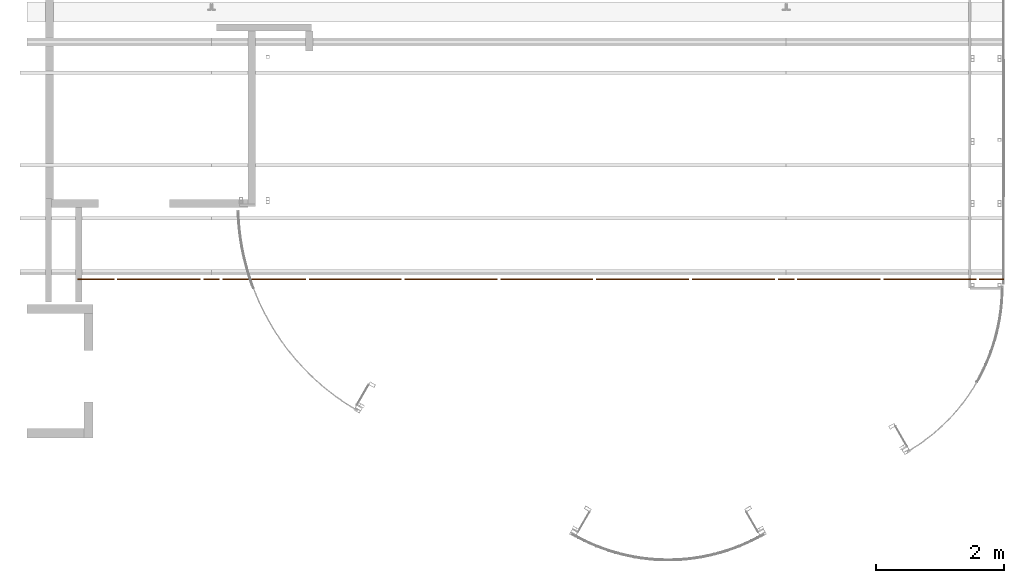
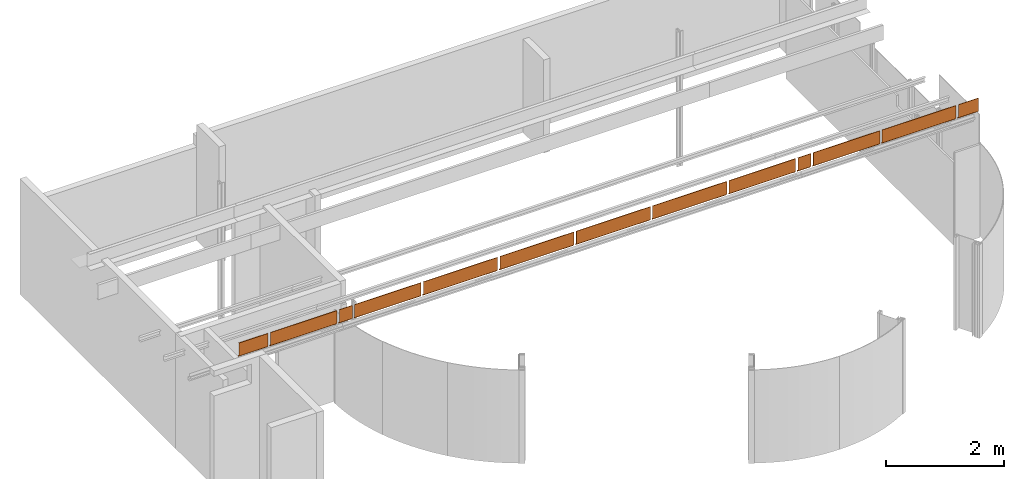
# One storey, part 11 of 11: 13 proxies.
"""IFC2X3 building model written with IfcOpenShell, lengths in millimetres."""

from ifc_helpers import new_model, entity, si_unit, converted_unit, derived_unit, direction, frame, origin, origin_with_axes, place, context, subcontext, project, spatial, polyline, outline, extrude, faceted_brep, source, transform, mapped, material, type_object, element, save


model = new_model("IFC2X3")

# Units and contexts
model_context = context("Model", 3, precision=0.01, world=frame((0.0, 4.29681676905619e-09, 0.0)), true_north=direction((4.01073788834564e-13, 1.0)))
plan_context = context("Plan", 3, precision=0.01, world=frame((0.0, 4.29681676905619e-09, 0.0)), true_north=direction((4.01073788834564e-13, 1.0)))
body_context = subcontext(model_context, "Body", "Model", "MODEL_VIEW")
ifc_project = project(units=[converted_unit("PLANEANGLEUNIT", "DEGREE", entity("IfcPositiveLengthMeasure", 0.0174532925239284), si_unit("PLANEANGLEUNIT", "RADIAN"), dimensions=[0, 0, 0, 0, 0, 0, 0]), si_unit("AREAUNIT", "SQUARE_METRE"), si_unit("LENGTHUNIT", "METRE", prefix="MILLI"), si_unit("MASSUNIT", "GRAM", prefix="KILO"), si_unit("POWERUNIT", "WATT"), si_unit("PRESSUREUNIT", "PASCAL"), si_unit("FORCEUNIT", "NEWTON", prefix="KILO"), si_unit("ELECTRICVOLTAGEUNIT", "VOLT"), si_unit("ELECTRICCURRENTUNIT", "AMPERE"), si_unit("THERMODYNAMICTEMPERATUREUNIT", "DEGREE_CELSIUS"), si_unit("TIMEUNIT", "SECOND"), si_unit("VOLUMEUNIT", "CUBIC_METRE"), derived_unit("LINEARVELOCITYUNIT", [(si_unit("LENGTHUNIT", "METRE"), 1), (si_unit("TIMEUNIT", "SECOND"), -1)]), derived_unit("VOLUMETRICFLOWRATEUNIT", [(si_unit("VOLUMEUNIT", "CUBIC_METRE"), 1), (si_unit("TIMEUNIT", "SECOND"), -1)]), derived_unit("THERMALTRANSMITTANCEUNIT", [(si_unit("POWERUNIT", "WATT"), 1), (si_unit("THERMODYNAMICTEMPERATUREUNIT", "KELVIN"), -1), (si_unit("AREAUNIT", "SQUARE_METRE"), -1)]), derived_unit("SOUNDPRESSUREUNIT", [(si_unit("PRESSUREUNIT", "PASCAL"), 1)])], contexts=[model_context, plan_context])

# Site, building, storey
site_placement = place(None, origin_with_axes())
site = spatial("IfcSite", under=ifc_project, at=site_placement, Name="ENGM", CompositionType="ELEMENT")
building_placement = place(site_placement, origin_with_axes())
building = spatial("IfcBuilding", under=site, at=building_placement, Name="TH", CompositionType="ELEMENT")
storey_placement = place(building_placement, frame((0.0, 0.0, 210900.0), z_axis=(0.0, 0.0, 1.0), x_axis=(1.0, 0.0, 0.0)))
storey = spatial("IfcBuildingStorey", under=building, at=storey_placement, Name="Nivå F", CompositionType="ELEMENT", Elevation=210900.0)

# Proxies
ifc_material = material(Name="<Unnamed>")
building_element_proxy_type_1 = type_object("IfcBuildingElementProxyType", Name="A240 - eksisterende dekkeforkantbeslag nivå G:A240 - Eksisterende dekkeforkantbeslag - Plate - 1500 mm", PredefinedType="NOTDEFINED", material=ifc_material)
shared_shape_1 = source(origin(), body_context, "Body", "SweptSolid", [
    extrude(outline(polyline([(1.59999999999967, -167.0), (12.5999999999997, -167.0), (12.6000000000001, 103.0), (-12.3999999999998, 103.0), (-12.3999999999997, 128.0), (-13.3999999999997, 128.0), (-13.3999999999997, 102.0), (11.6000000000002, 102.0), (11.5999999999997, -166.0), (1.59999999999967, -166.0), (1.59999999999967, -167.0)])), frame((0.0, 12.599999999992, -182.0), z_axis=(1.0, 0.0, 0.0), x_axis=(0.0, -1.0, 0.0)), (0.0, 0.0, 1.0), 1305.0),
])
for number, where, z_axis, x_axis in (
    (1, (896522.500000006, 480795.004374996, 2800.0), (0.0, 0.0, 1.0), (1.0, 0.0, 0.0)),
    (2, (898172.499999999, 480795.004374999, 2800.0), (0.0, 0.0, 1.0), (1.0, 0.0, 0.0)),
    (3, (905522.499999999, 480795.004374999, 2800.0), (0.0, 0.0, 1.0), (1.0, 0.0, 0.0)),
    (4, (907172.499999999, 480795.004374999, 2800.0), (0.0, 0.0, 1.0), (1.0, 0.0, 0.0)),
):
    element("IfcBuildingElementProxy", number, at=place(storey_placement, frame(where, z_axis=z_axis, x_axis=x_axis)), inside=storey, type_object=building_element_proxy_type_1, material=ifc_material, Name="A240 - eksisterende dekkeforkantbeslag nivå G:A240 - Eksisterende dekkeforkantbeslag - Plate - 1500 mm", ObjectType="A240 - eksisterende dekkeforkantbeslag nivå G:A240 - Eksisterende dekkeforkantbeslag - Plate - 1500 mm", context=body_context, shape_type="MappedRepresentation", body=[
        mapped(shared_shape_1, transform((0.0, 0.0, 0.0), scale=1.0)),
    ])
building_element_proxy_type_2 = type_object("IfcBuildingElementProxyType", Name="A240 - eksisterende dekkeforkantbeslag nivå G:A240 - Eksisterende dekkeforkantbeslag - Plate - 1500 mm", PredefinedType="NOTDEFINED", material=ifc_material)
shared_shape_2 = source(origin(), body_context, "Body", "SweptSolid", [
    extrude(outline(polyline([(-167.0, 1.60000000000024), (-166.0, 1.60000000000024), (-166.0, 11.6000000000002), (102.0, 11.5999999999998), (102.0, -13.4000000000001), (128.0, -13.4000000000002), (128.0, -12.4000000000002), (103.0, -12.4000000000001), (103.0, 12.5999999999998), (-167.0, 12.6000000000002), (-167.0, 1.60000000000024)])), frame((0.0, -12.599999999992, -182.0), z_axis=(1.0, 0.0, 0.0), x_axis=(0.0, 0.0, -1.0)), (0.0, 0.0, 1.0), 575.154648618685),
])
proxy_1_placement = place(storey_placement, frame((896477.500000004, 480795.004374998, 2800.0), z_axis=(0.0, 0.0, 1.0), x_axis=(-1.0, 0.0, 0.0)))
element("IfcBuildingElementProxy", 5, at=proxy_1_placement, inside=storey, type_object=building_element_proxy_type_2, material=ifc_material, Name="A240 - eksisterende dekkeforkantbeslag nivå G:A240 - Eksisterende dekkeforkantbeslag - Plate - 1500 mm", ObjectType="A240 - eksisterende dekkeforkantbeslag nivå G:A240 - Eksisterende dekkeforkantbeslag - Plate - 1500 mm", context=body_context, shape_type="MappedRepresentation", body=[
    mapped(shared_shape_2, transform((0.0, 0.0, 0.0), scale=1.0)),
])
building_element_proxy_type_3 = type_object("IfcBuildingElementProxyType", Name="A240 - eksisterende dekkeforkantbeslag nivå G:A240 - Eksisterende dekkeforkantbeslag - Plate - 1500 mm", PredefinedType="NOTDEFINED", material=ifc_material)
shared_shape_3 = source(origin(), body_context, "Body", "SweptSolid", [
    extrude(outline(polyline([(1.59999999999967, -167.0), (12.5999999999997, -167.0), (12.6000000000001, 103.0), (-12.3999999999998, 103.0), (-12.3999999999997, 128.0), (-13.3999999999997, 128.0), (-13.3999999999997, 102.0), (11.6000000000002, 102.0), (11.5999999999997, -166.0), (1.59999999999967, -166.0), (1.59999999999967, -167.0)])), frame((0.0, 12.599999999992, -182.0), z_axis=(1.0, 0.0, 0.0), x_axis=(0.0, -1.0, 0.0)), (0.0, 0.0, 1.0), 254.999999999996),
])
for number, where, z_axis, x_axis in (
    (6, (897872.500000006, 480795.004374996, 2800.0), (0.0, 0.0, 1.0), (1.0, 0.0, 0.0)),
    (7, (906872.500000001, 480795.004374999, 2800.0), (0.0, 0.0, 1.0), (1.0, 0.0, 0.0)),
):
    element("IfcBuildingElementProxy", number, at=place(storey_placement, frame(where, z_axis=z_axis, x_axis=x_axis)), inside=storey, type_object=building_element_proxy_type_3, material=ifc_material, Name="A240 - eksisterende dekkeforkantbeslag nivå G:A240 - Eksisterende dekkeforkantbeslag - Plate - 1500 mm", ObjectType="A240 - eksisterende dekkeforkantbeslag nivå G:A240 - Eksisterende dekkeforkantbeslag - Plate - 1500 mm", context=body_context, shape_type="MappedRepresentation", body=[
        mapped(shared_shape_3, transform((0.0, 0.0, 0.0), scale=1.0)),
    ])
building_element_proxy_type_4 = type_object("IfcBuildingElementProxyType", Name="A240 - eksisterende dekkeforkantbeslag nivå G:A240 - Eksisterende dekkeforkantbeslag - Plate - 1500 mm", PredefinedType="NOTDEFINED", material=ifc_material)
shared_shape_4 = source(origin(), body_context, "Body", "SweptSolid", [
    extrude(outline(polyline([(1.59999999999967, -167.0), (12.5999999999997, -167.0), (12.6000000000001, 103.0), (-12.3999999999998, 103.0), (-12.3999999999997, 128.0), (-13.3999999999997, 128.0), (-13.3999999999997, 102.0), (11.6000000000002, 102.0), (11.5999999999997, -166.0), (1.59999999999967, -166.0), (1.59999999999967, -167.0)])), frame((0.0, 12.599999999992, -182.0), z_axis=(1.0, 0.0, 0.0), x_axis=(0.0, -1.0, 0.0)), (0.0, 0.0, 1.0), 1454.99999999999),
])
for number, where, z_axis, x_axis in (
    (8, (899522.500000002, 480795.004374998, 2800.0), (0.0, 0.0, 1.0), (1.0, 0.0, 0.0)),
    (9, (901022.500000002, 480795.004374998, 2800.0), (0.0, 0.0, 1.0), (1.0, 0.0, 0.0)),
    (10, (902522.500000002, 480795.004374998, 2800.0), (0.0, 0.0, 1.0), (1.0, 0.0, 0.0)),
    (11, (904022.500000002, 480795.004374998, 2800.0), (0.0, 0.0, 1.0), (1.0, 0.0, 0.0)),
    (12, (908522.500000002, 480795.004374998, 2800.0), (0.0, 0.0, 1.0), (1.0, 0.0, 0.0)),
):
    element("IfcBuildingElementProxy", number, at=place(storey_placement, frame(where, z_axis=z_axis, x_axis=x_axis)), inside=storey, type_object=building_element_proxy_type_4, material=ifc_material, Name="A240 - eksisterende dekkeforkantbeslag nivå G:A240 - Eksisterende dekkeforkantbeslag - Plate - 1500 mm", ObjectType="A240 - eksisterende dekkeforkantbeslag nivå G:A240 - Eksisterende dekkeforkantbeslag - Plate - 1500 mm", context=body_context, shape_type="MappedRepresentation", body=[
        mapped(shared_shape_4, transform((0.0, 0.0, 0.0), scale=1.0)),
    ])
proxy_2_placement = place(storey_placement, frame((910022.500000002, 480795.004374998, 2800.0), z_axis=(0.0, 0.0, 1.0), x_axis=(1.0, 0.0, 0.0)))
element("IfcBuildingElementProxy", 13, at=proxy_2_placement, inside=storey, type_object=building_element_proxy_type_4, Name="A240 - eksisterende dekkeforkantbeslag nivå G:A240 - Eksisterende dekkeforkantbeslag - Plate - 1500 mm", ObjectType="A240 - eksisterende dekkeforkantbeslag nivå G:A240 - Eksisterende dekkeforkantbeslag - Plate - 1500 mm", context=body_context, shape_type="Brep", body=[
    faceted_brep([(388.08484179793, 10.9999999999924, -16.0), (388.08484179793, 10.9999999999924, -15.0), (0.0, 10.9999999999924, -15.0), (0.0, 10.9999999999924, -16.0), (388.08484179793, -7.64366347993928e-12, -15.0), (0.0, -7.64366347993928e-12, -15.0), (388.08484179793, -8.12505618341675e-12, -285.0), (0.0, -8.12505618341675e-12, -285.0), (388.08484179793, 24.9999999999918, -285.0), (0.0, 24.9999999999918, -285.0), (388.08484179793, 24.9999999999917, -310.0), (0.0, 24.9999999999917, -310.0), (388.08484179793, 25.9999999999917, -310.0), (0.0, 25.9999999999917, -310.0), (388.08484179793, 25.9999999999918, -284.0), (0.0, 25.9999999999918, -284.0), (388.08484179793, 0.999999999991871, -284.0), (0.0, 0.999999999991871, -284.0), (388.08484179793, 0.999999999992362, -16.0), (0.0, 0.999999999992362, -16.0)], [[[0, 1, 2, 3]], [[1, 4, 5, 2]], [[4, 6, 7, 5]], [[6, 8, 9, 7]], [[8, 10, 11, 9]], [[10, 12, 13, 11]], [[12, 14, 15, 13]], [[14, 16, 17, 15]], [[16, 18, 19, 17]], [[18, 0, 3, 19]], [[3, 2, 5, 7, 9, 11, 13, 15, 17, 19]], [[18, 16, 14, 12, 10, 8, 6, 4, 1, 0]]], orient=[[False], [False], [False], [False], [False], [False], [False], [False], [False], [False], [False], [False]]),
])

save(model, "model.ifc")
